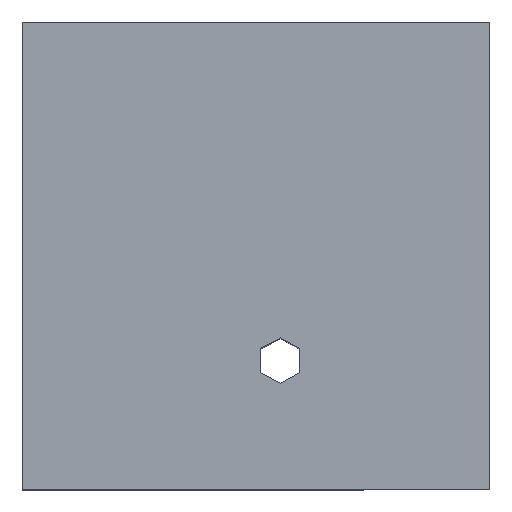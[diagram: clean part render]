
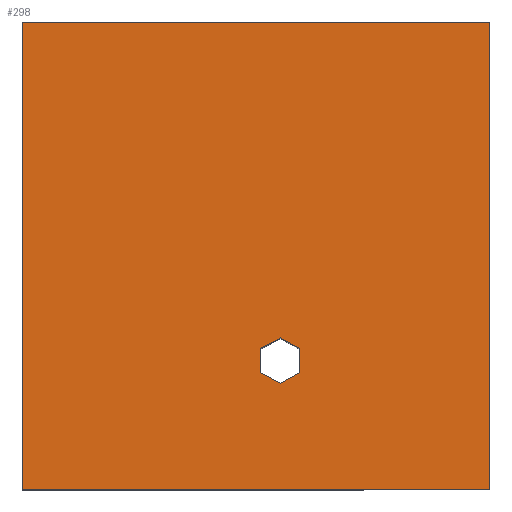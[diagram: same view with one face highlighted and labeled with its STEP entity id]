
A CAD part, top view. The second image highlights one B-rep face of the part: STEP entity #298.
In plain terms, the highlighted planar face has unit normal (0, 0, 1).
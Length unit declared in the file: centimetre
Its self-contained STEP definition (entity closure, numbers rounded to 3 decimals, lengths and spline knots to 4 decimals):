
#6 = EDGE_CURVE ( 'NONE', #144, #492, #319, .T. ) ;
#10 = VERTEX_POINT ( 'NONE', #83 ) ;
#15 = DIRECTION ( 'NONE',  ( 0.886, 0.464, 0. ) ) ;
#26 = FACE_BOUND ( 'NONE', #642, .T. ) ;
#27 = EDGE_CURVE ( 'NONE', #519, #337, #146, .T. ) ;
#29 = DIRECTION ( 'NONE',  ( 0., -1., 0. ) ) ;
#33 = CARTESIAN_POINT ( 'NONE',  ( 0., 1000., 1000. ) ) ;
#35 = CARTESIAN_POINT ( 'NONE',  ( 0., 1000., 1000. ) ) ;
#44 = EDGE_CURVE ( 'NONE', #460, #144, #726, .T. ) ;
#48 = VECTOR ( 'NONE', #15, 100. ) ;
#60 = LINE ( 'NONE', #405, #114 ) ;
#71 = CARTESIAN_POINT ( 'NONE',  ( 0., 1000., 1000. ) ) ;
#83 = CARTESIAN_POINT ( 'NONE',  ( 593.3005, 301.145, 1000. ) ) ;
#84 = EDGE_CURVE ( 'NONE', #482, #692, #198, .T. ) ;
#85 = LINE ( 'NONE', #304, #287 ) ;
#109 = DIRECTION ( 'NONE',  ( 1., 0., 0. ) ) ;
#114 = VECTOR ( 'NONE', #355, 100. ) ;
#138 = VECTOR ( 'NONE', #440, 100. ) ;
#144 = VERTEX_POINT ( 'NONE', #71 ) ;
#146 = LINE ( 'NONE', #730, #246 ) ;
#147 = FACE_OUTER_BOUND ( 'NONE', #310, .T. ) ;
#161 = LINE ( 'NONE', #745, #277 ) ;
#198 = LINE ( 'NONE', #391, #231 ) ;
#207 = DIRECTION ( 'NONE',  ( -0.876, -0.481, 0. ) ) ;
#216 = EDGE_CURVE ( 'NONE', #603, #10, #60, .T. ) ;
#218 = DIRECTION ( 'NONE',  ( 0., -1., 0. ) ) ;
#222 = CARTESIAN_POINT ( 'NONE',  ( 593.3005, 249.2493, 1000. ) ) ;
#231 = VECTOR ( 'NONE', #207, 100. ) ;
#241 = VECTOR ( 'NONE', #109, 100. ) ;
#246 = VECTOR ( 'NONE', #379, 100. ) ;
#257 = CARTESIAN_POINT ( 'NONE',  ( 0., 0., 1000. ) ) ;
#271 = CARTESIAN_POINT ( 'NONE',  ( 0., 0., 1000. ) ) ;
#277 = VECTOR ( 'NONE', #218, 100. ) ;
#287 = VECTOR ( 'NONE', #562, 100. ) ;
#298 = ADVANCED_FACE ( 'NONE', ( #26, #147 ), #605, .T. ) ;
#304 = CARTESIAN_POINT ( 'NONE',  ( 552.3458, 226.7555, 1000. ) ) ;
#310 = EDGE_LOOP ( 'NONE', ( #535, #610, #646, #478 ) ) ;
#319 = LINE ( 'NONE', #35, #480 ) ;
#337 = VERTEX_POINT ( 'NONE', #426 ) ;
#339 = EDGE_CURVE ( 'NONE', #421, #460, #722, .T. ) ;
#342 = ORIENTED_EDGE ( 'NONE', *, *, #437, .T. ) ;
#355 = DIRECTION ( 'NONE',  ( 0.876, -0.481, 0. ) ) ;
#356 = ORIENTED_EDGE ( 'NONE', *, *, #84, .T. ) ;
#379 = DIRECTION ( 'NONE',  ( 0., 1., 0. ) ) ;
#380 = EDGE_CURVE ( 'NONE', #692, #519, #85, .T. ) ;
#381 = DIRECTION ( 'NONE',  ( 0., 0., 1. ) ) ;
#384 = CARTESIAN_POINT ( 'NONE',  ( 509.3971, 301.145, 1000. ) ) ;
#391 = CARTESIAN_POINT ( 'NONE',  ( 593.3005, 249.2493, 1000. ) ) ;
#394 = VECTOR ( 'NONE', #656, 100. ) ;
#397 = LINE ( 'NONE', #456, #241 ) ;
#405 = CARTESIAN_POINT ( 'NONE',  ( 552.3458, 323.6388, 1000. ) ) ;
#421 = VERTEX_POINT ( 'NONE', #749 ) ;
#426 = CARTESIAN_POINT ( 'NONE',  ( 509.3971, 301.145, 1000. ) ) ;
#437 = EDGE_CURVE ( 'NONE', #10, #482, #161, .T. ) ;
#440 = DIRECTION ( 'NONE',  ( -1., 0., 0. ) ) ;
#456 = CARTESIAN_POINT ( 'NONE',  ( 0., 0., 1000. ) ) ;
#460 = VERTEX_POINT ( 'NONE', #742 ) ;
#478 = ORIENTED_EDGE ( 'NONE', *, *, #44, .T. ) ;
#480 = VECTOR ( 'NONE', #29, 100. ) ;
#482 = VERTEX_POINT ( 'NONE', #222 ) ;
#491 = EDGE_CURVE ( 'NONE', #492, #421, #397, .T. ) ;
#492 = VERTEX_POINT ( 'NONE', #271 ) ;
#499 = CARTESIAN_POINT ( 'NONE',  ( 1000., 1000., 1000. ) ) ;
#502 = CARTESIAN_POINT ( 'NONE',  ( 509.3971, 249.2493, 1000. ) ) ;
#508 = ORIENTED_EDGE ( 'NONE', *, *, #216, .T. ) ;
#511 = ORIENTED_EDGE ( 'NONE', *, *, #27, .T. ) ;
#519 = VERTEX_POINT ( 'NONE', #502 ) ;
#535 = ORIENTED_EDGE ( 'NONE', *, *, #6, .T. ) ;
#548 = LINE ( 'NONE', #384, #48 ) ;
#562 = DIRECTION ( 'NONE',  ( -0.886, 0.464, 0. ) ) ;
#577 = ORIENTED_EDGE ( 'NONE', *, *, #380, .T. ) ;
#590 = CARTESIAN_POINT ( 'NONE',  ( 552.3458, 226.7555, 1000. ) ) ;
#603 = VERTEX_POINT ( 'NONE', #647 ) ;
#605 = PLANE ( 'NONE',  #720 ) ;
#610 = ORIENTED_EDGE ( 'NONE', *, *, #491, .T. ) ;
#613 = DIRECTION ( 'NONE',  ( 1., 0., 0. ) ) ;
#642 = EDGE_LOOP ( 'NONE', ( #511, #724, #508, #342, #356, #577 ) ) ;
#646 = ORIENTED_EDGE ( 'NONE', *, *, #339, .T. ) ;
#647 = CARTESIAN_POINT ( 'NONE',  ( 552.3458, 323.6388, 1000. ) ) ;
#656 = DIRECTION ( 'NONE',  ( 0., 1., 0. ) ) ;
#692 = VERTEX_POINT ( 'NONE', #590 ) ;
#720 = AXIS2_PLACEMENT_3D ( 'NONE', #257, #381, #613 ) ;
#722 = LINE ( 'NONE', #499, #394 ) ;
#724 = ORIENTED_EDGE ( 'NONE', *, *, #754, .T. ) ;
#726 = LINE ( 'NONE', #33, #138 ) ;
#730 = CARTESIAN_POINT ( 'NONE',  ( 509.3971, 249.2493, 1000. ) ) ;
#742 = CARTESIAN_POINT ( 'NONE',  ( 1000., 1000., 1000. ) ) ;
#745 = CARTESIAN_POINT ( 'NONE',  ( 593.3005, 301.145, 1000. ) ) ;
#749 = CARTESIAN_POINT ( 'NONE',  ( 1000., 0., 1000. ) ) ;
#754 = EDGE_CURVE ( 'NONE', #337, #603, #548, .T. ) ;
